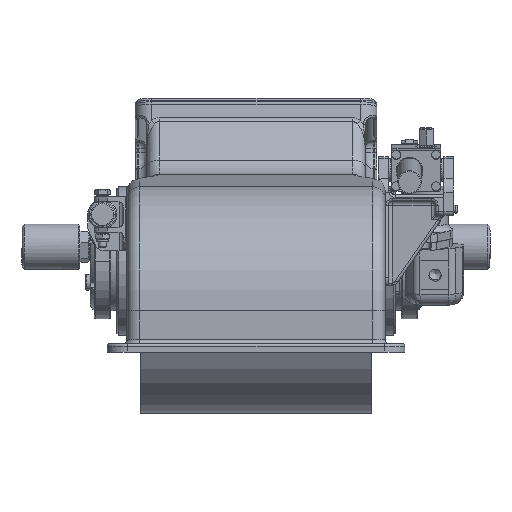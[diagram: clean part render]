
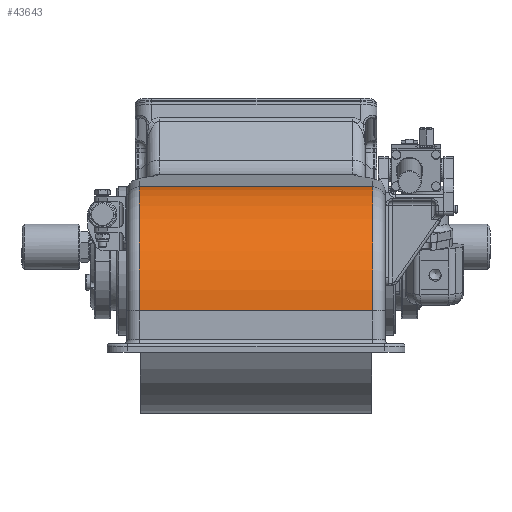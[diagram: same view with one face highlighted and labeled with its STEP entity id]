
A CAD part, front view. The second image highlights one B-rep face of the part: STEP entity #43643.
In plain terms, the highlighted cylindrical face has radius 150 mm (diameter 300 mm), a partial arc.
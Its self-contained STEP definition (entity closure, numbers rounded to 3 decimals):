
#3229=CIRCLE('',#47076,150.);
#3230=CIRCLE('',#47077,150.);
#4721=CYLINDRICAL_SURFACE('',#47075,150.);
#6459=FACE_OUTER_BOUND('',#9063,.T.);
#9063=EDGE_LOOP('',(#33290,#33291,#33292,#33293));
#12376=LINE('',#72964,#15333);
#12377=LINE('',#72967,#15334);
#15333=VECTOR('',#55825,10.);
#15334=VECTOR('',#55828,10.);
#18529=VERTEX_POINT('',#72960);
#18530=VERTEX_POINT('',#72961);
#18531=VERTEX_POINT('',#72963);
#18532=VERTEX_POINT('',#72965);
#23704=EDGE_CURVE('',#18529,#18530,#3229,.T.);
#23705=EDGE_CURVE('',#18529,#18531,#12376,.T.);
#23706=EDGE_CURVE('',#18532,#18531,#3230,.T.);
#23707=EDGE_CURVE('',#18530,#18532,#12377,.T.);
#33290=ORIENTED_EDGE('',*,*,#23704,.F.);
#33291=ORIENTED_EDGE('',*,*,#23705,.T.);
#33292=ORIENTED_EDGE('',*,*,#23706,.F.);
#33293=ORIENTED_EDGE('',*,*,#23707,.F.);
#43643=ADVANCED_FACE('',(#6459),#4721,.T.);
#47075=AXIS2_PLACEMENT_3D('',#72959,#55821,#55822);
#47076=AXIS2_PLACEMENT_3D('',#72962,#55823,#55824);
#47077=AXIS2_PLACEMENT_3D('',#72966,#55826,#55827);
#55821=DIRECTION('center_axis',(1.,0.,0.));
#55822=DIRECTION('ref_axis',(0.,0.07,-0.998));
#55823=DIRECTION('center_axis',(-1.,0.,0.));
#55824=DIRECTION('ref_axis',(0.,-0.731,0.682));
#55825=DIRECTION('',(1.,0.,0.));
#55826=DIRECTION('center_axis',(1.,0.,0.));
#55827=DIRECTION('ref_axis',(0.,-0.731,0.682));
#55828=DIRECTION('',(1.,0.,0.));
#72959=CARTESIAN_POINT('Origin',(126.,-400.,-60.));
#72960=CARTESIAN_POINT('',(-141.,-550.,-60.));
#72961=CARTESIAN_POINT('',(-141.,-410.463,89.635));
#72962=CARTESIAN_POINT('Origin',(-141.,-400.,-60.));
#72963=CARTESIAN_POINT('',(141.,-550.,-60.));
#72964=CARTESIAN_POINT('',(126.,-550.,-60.));
#72965=CARTESIAN_POINT('',(141.,-410.463,89.635));
#72966=CARTESIAN_POINT('Origin',(141.,-400.,-60.));
#72967=CARTESIAN_POINT('',(126.,-410.463,89.635));
